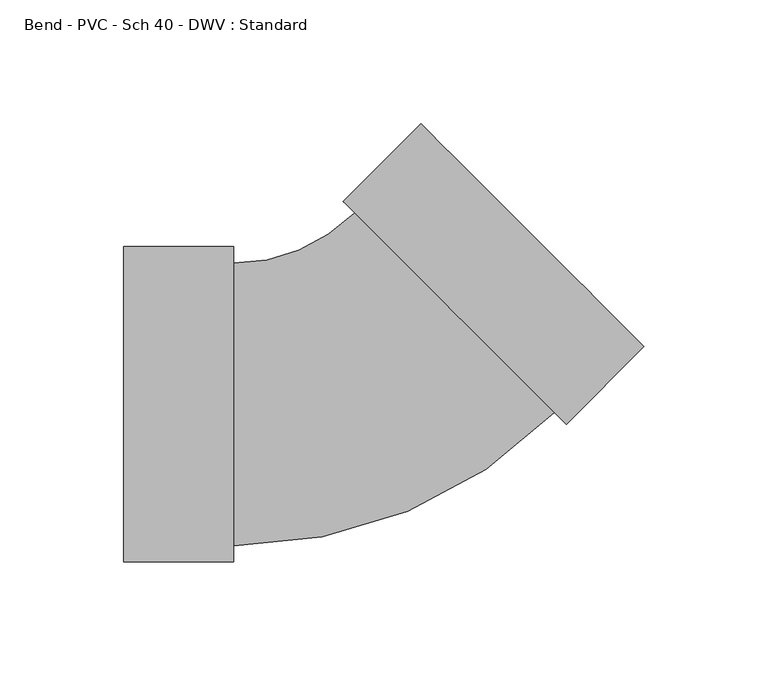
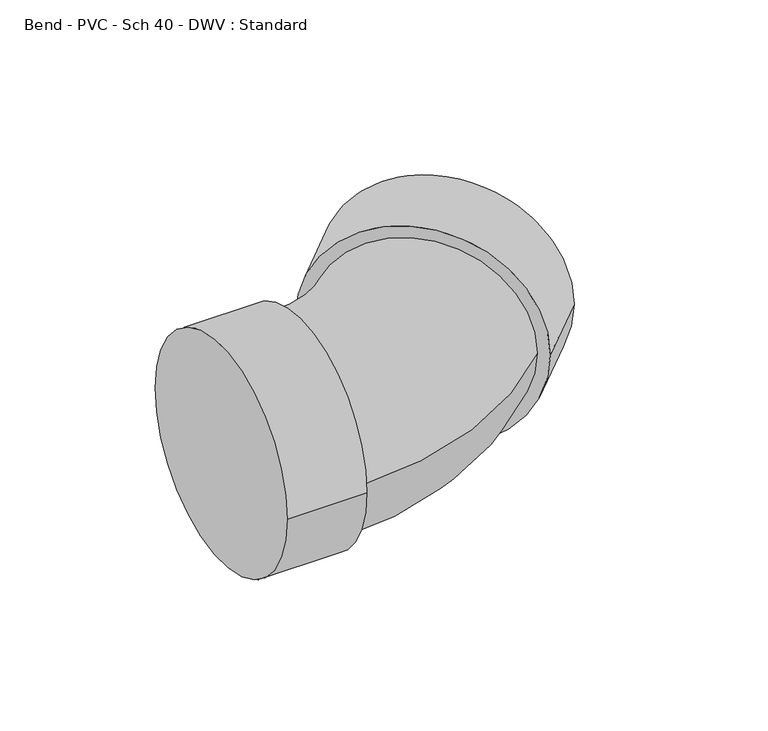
"""IFC4 building model written with IfcOpenShell, lengths in millimetres: pipe fitting geometry, Bend - PVC - Sch 40 - DWV : Standard."""

from ifc_helpers import new_model, si_unit, point, frame, origin, place, context, project, spatial, circle_curve, ellipse_curve, trimmed, source, transform, mapped, element, save
from ifc_brep_helpers import plane_surface, cylinder_surface, revolved_surface, advanced_brep


def bend_pvc_sch_40_dwv_standard_eef3f322(model_context):
    return source(origin(), model_context, "Body", "AdvancedBrep", [
        advanced_brep(
        [(-96.8502, -63.754, 0.0), (-96.8502, 63.754, 0.0), (-52.4002, -63.754, 0.0), (-52.4002, 63.754, 0.0), (-52.4002, -57.15, 0.0), (-52.4002, 57.15, 0.0), (-3.3755699, 77.4629524, 0.0), (77.4644225, -3.3416615, 0.0), (82.1351777, -8.0103725, 0.0), (-8.046325, 82.1316634, 0.0), (113.5591942, 23.4274023, 0.0), (23.3776915, 113.5694382, 0.0)],
        [
            (0, 1, circle_curve(frame((-96.8502, 0.0, 0.0), z_axis=(-1.0, 0.0, 0.0), x_axis=(0.0, 1.0, 0.0)), 63.754)),
            (1, 0, circle_curve(frame((-96.8502, 0.0, 0.0), z_axis=(-1.0, 0.0, 0.0), x_axis=(0.0, 1.0, 0.0)), 63.754)),
            (2, 3, circle_curve(frame((-52.4002, 0.0, 0.0), z_axis=(1.0, 0.0, 0.0), x_axis=(0.0, 1.0, 0.0)), 63.754)),
            (3, 2, circle_curve(frame((-52.4002, 0.0, 0.0), z_axis=(1.0, 0.0, 0.0), x_axis=(0.0, 1.0, 0.0)), 63.754)),
            (4, 5, circle_curve(frame((-52.4002, 0.0, 0.0), z_axis=(-1.0, 0.0, 0.0), x_axis=(0.0, 1.0, 0.0)), 57.15)),
            (5, 4, circle_curve(frame((-52.4002, 0.0, 0.0), z_axis=(-1.0, 0.0, 0.0), x_axis=(0.0, 1.0, 0.0)), 57.15)),
            (0, 2),
            (3, 1),
            (6, 5, circle_curve(frame((-52.4002, 126.4661275, 0.0), z_axis=(0.0, 0.0, -1.0), x_axis=(0.0, -1.0, 0.0)), 69.3161275)),
            (4, 7, circle_curve(frame((-52.4002, 126.4661275, 0.0), z_axis=(0.0, 0.0, 1.0), x_axis=(0.0, -1.0, 0.0)), 183.6161275)),
            (7, 6, circle_curve(frame((37.0444263, 37.0606454, 0.0), z_axis=(-0.7069520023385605, -0.7072615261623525, 0.0), x_axis=(-0.7072615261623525, 0.7069520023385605, 0.0)), 57.15)),
            (6, 7, circle_curve(frame((37.0444263, 37.0606454, 0.0), z_axis=(-0.7069520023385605, -0.7072615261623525, 0.0), x_axis=(-0.7072615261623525, 0.7069520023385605, 0.0)), 57.15)),
            (8, 9, circle_curve(frame((37.0444263, 37.0606454, 0.0), z_axis=(-0.7069520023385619, -0.7072615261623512, 0.0), x_axis=(-0.707261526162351, 0.7069520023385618, 0.0)), 63.754)),
            (9, 8, circle_curve(frame((37.0444263, 37.0606454, 0.0), z_axis=(-0.7069520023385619, -0.7072615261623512, 0.0), x_axis=(-0.707261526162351, 0.7069520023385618, 0.0)), 63.754)),
            (10, 11, circle_curve(frame((68.4684428, 68.4984203, 0.0), z_axis=(0.7069520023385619, 0.7072615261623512, 0.0), x_axis=(-0.707261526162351, 0.7069520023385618, 0.0)), 63.754)),
            (11, 10, circle_curve(frame((68.4684428, 68.4984203, 0.0), z_axis=(0.7069520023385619, 0.7072615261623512, 0.0), x_axis=(-0.707261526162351, 0.7069520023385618, 0.0)), 63.754)),
            (8, 10),
            (11, 9),
        ],
        [
            plane_surface(frame((-96.8502, 0.0, 0.0), z_axis=(-1.0, 0.0, 0.0), x_axis=(0.0, 0.0, 1.0))),
            plane_surface(frame((-52.4002, 0.0, 0.0), z_axis=(1.0, 0.0, 0.0), x_axis=(0.0, 0.0, 1.0))),
            cylinder_surface(frame((-96.8502, 0.0, 0.0), z_axis=(-1.0, 0.0, 0.0), x_axis=(0.0, 1.0, 0.0)), 63.754),
            revolved_surface(trimmed(ellipse_curve(frame((-52.4002, 0.0, 0.0), z_axis=(-1.0, 0.0, 0.0), x_axis=(0.0, 1.0, 0.0)), 57.15, 57.15), [point((-52.4002, -57.15, 0.0))], [point((-52.4002, 57.15, 0.0))], True, "CARTESIAN"), (-52.4002, 126.4661275, 0.0), (0.0, 0.0, 1.0)),
            revolved_surface(trimmed(ellipse_curve(frame((-52.4002, 0.0, 0.0), z_axis=(-1.0, 0.0, 0.0), x_axis=(0.0, 1.0, 0.0)), 57.15, 57.15), [point((-52.4002, 57.15, 0.0))], [point((-52.4002, -57.15, 0.0))], True, "CARTESIAN"), (-52.4002, 126.4661275, 0.0), (0.0, 0.0, 1.0)),
            plane_surface(frame((37.0444263, 37.0606454, 0.0), z_axis=(-0.7069520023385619, -0.7072615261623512, 0.0), x_axis=(0.0, 0.0, 1.0))),
            plane_surface(frame((68.4684428, 68.4984203, 0.0), z_axis=(0.7069520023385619, 0.7072615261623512, 0.0), x_axis=(0.0, 0.0, 1.0))),
            cylinder_surface(frame((37.0444263, 37.0606454, 0.0), z_axis=(-0.7069520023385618, -0.707261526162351, 0.0), x_axis=(-0.707261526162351, 0.7069520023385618, 0.0)), 63.754),
        ],
        [
            (0, [[1, 2]]),
            (1, [[3, 4], [5, 6]]),
            (2, [[-1, 7, -4, 8]]),
            (2, [[-2, -8, -3, -7]]),
            (3, [[9, -5, 10, 11]]),
            (4, [[-9, 12, -10, -6]]),
            (5, [[13, 14], [-11, -12]]),
            (6, [[15, 16]]),
            (7, [[-13, 17, -16, 18]]),
            (7, [[-14, -18, -15, -17]]),
        ],
    ),
    ])


if __name__ == "__main__":
    model = new_model("IFC4")
    model_context = context("Model", 3, world=origin())
    ifc_project = project(units=[si_unit("LENGTHUNIT", "METRE", prefix="MILLI")], contexts=[model_context])
    site = spatial("IfcSite", under=ifc_project)
    building = spatial("IfcBuilding", under=site)
    placement = place(None, origin())
    bend_pvc_sch_40_dwv_standard_shape = bend_pvc_sch_40_dwv_standard_eef3f322(model_context)
    element("IfcPipeFitting", 1, ObjectType="Bend - PVC - Sch 40 - DWV : Standard", at=placement, inside=building, context=model_context, shape_type="MappedRepresentation", body=[
        mapped(bend_pvc_sch_40_dwv_standard_shape, transform((0.0, 0.0, 0.0), x_axis=(1.0, 0.0, 0.0), y_axis=(0.0, 1.0, 0.0), z_axis=(0.0, 0.0, 1.0))),
    ])
    save(model, "model.ifc")
